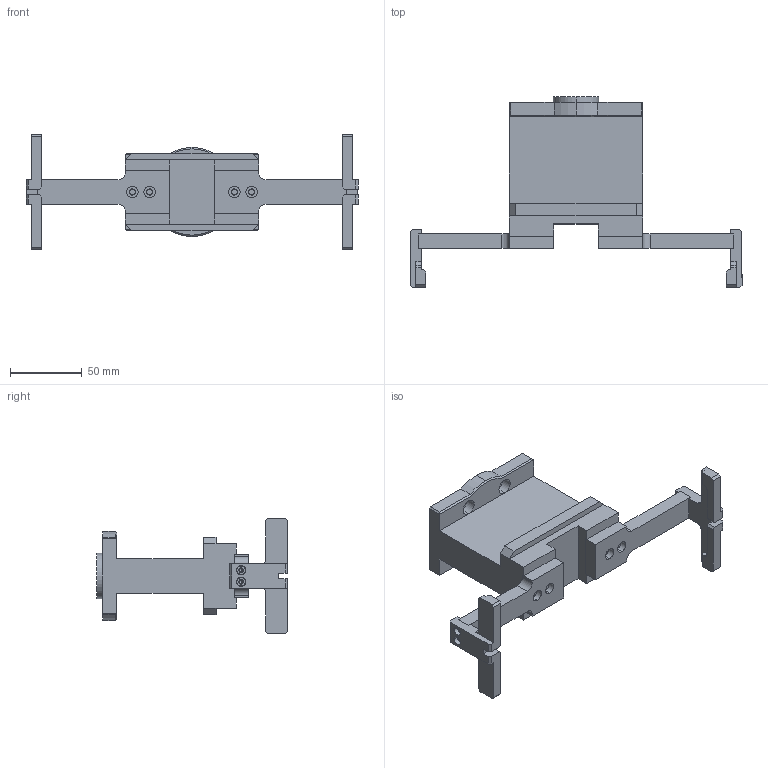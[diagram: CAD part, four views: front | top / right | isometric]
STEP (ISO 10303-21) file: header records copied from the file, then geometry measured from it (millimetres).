
FILE_DESCRIPTION (( 'STEP AP214' ), '1' );
FILE_NAME ('机器人工具手---夹周转箱.STEP', '2023-03-01T05:36:41', ( 'Windows User' ), ( 'P R C' ), 'SwSTEP 2.0', 'SolidWorks 2020', '' );
FILE_SCHEMA (( 'AUTOMOTIVE_DESIGN' ));
Length unit declared in the file: millimetre
Products named in the file (6): __________Toyo______-____1.STEP; __________Toyo______-____2.STEP; Toyo____.STEP; 机器人工具手---夹周转箱; 机器人工具手---夹周转箱.STEP; ____.STEP
Assembly tree (7 placements, depth 4):
  机器人工具手---夹周转箱
    机器人工具手---夹周转箱.STEP
      Toyo____.STEP
        ____.STEP
      __________Toyo______-____1.STEP  x2
      __________Toyo______-____2.STEP  x2
Bounding box: 231 x 132.5 x 80 mm (x, y, z)
Volume: 333243.7 mm3; surface area: 65778.6 mm2
Topology: 5 solids, 5 shells, 259 faces, 663 edges, 427 vertices
Faces by surface type: plane 159, cylinder 81, cone 19
Entity records: 5427 total; most frequent: DIRECTION 913, CARTESIAN_POINT 909, ORIENTED_EDGE 864, EDGE_CURVE 432, LINE 311, VECTOR 311, AXIS2_PLACEMENT_3D 301, VERTEX_POINT 281
